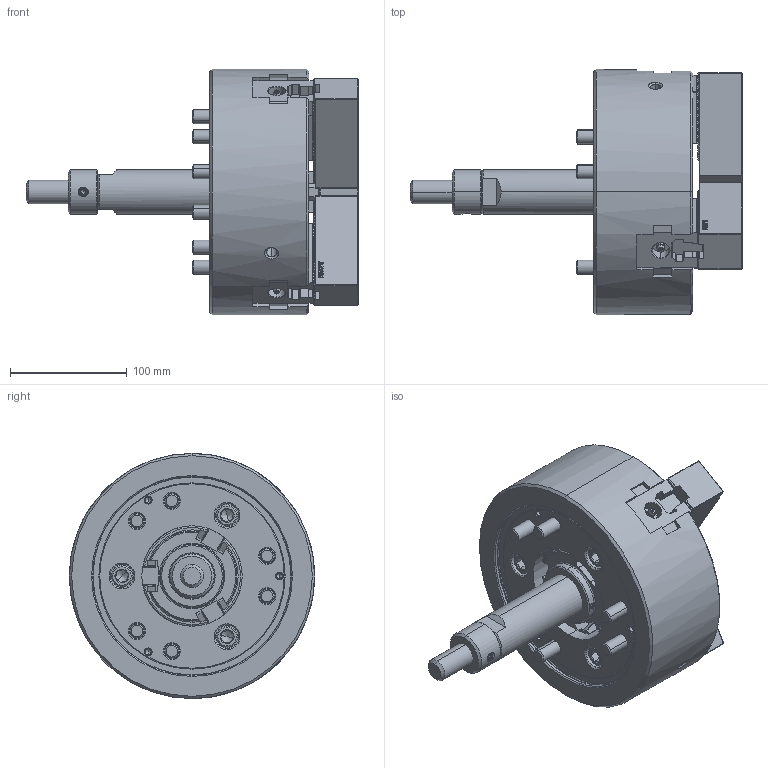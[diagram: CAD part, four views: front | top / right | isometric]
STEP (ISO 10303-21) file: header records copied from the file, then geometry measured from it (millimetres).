
FILE_DESCRIPTION (( 'STEP AP214' ), '1' );
FILE_NAME ('DT1_NL08_OUTSIDE_VIEW_HOL.STEP', '2026-03-19T05:28:34', ( '' ), ( '' ), 'SwSTEP 2.0', 'SolidWorks 2022', '' );
FILE_SCHEMA (( 'AUTOMOTIVE_DESIGN' ));
Length unit declared in the file: millimetre
Products named in the file (11): DT1_NL08_DN^DT1_NL08; DT1_NL08_SOFTJAW^DT1_NL08; DT1_NL08_BASE^DT1_NL08; DT1_NL08_TNUT^DT1_NL08; DT1_NL08_M12x35^DT1_NL08; DT1_NL08_M5x12^DT1_NL08; DT1_NL08_M12x85^DT1_NL08; DT1_NL08_COVER^DT1_NL08; DT1_NL08_OUTSIDE_VIEW_HOL; DT1_NL08_DRAWSCREW^DT1_NL08; Copy of 61P310518^DT1_NL08
Assembly tree (26 placements, depth 2):
  DT1_NL08_OUTSIDE_VIEW_HOL
    DT1_NL08_SOFTJAW^DT1_NL08  x3
    DT1_NL08_TNUT^DT1_NL08  x3
    DT1_NL08_COVER^DT1_NL08
    DT1_NL08_DRAWSCREW^DT1_NL08
    Copy of 61P310518^DT1_NL08
    DT1_NL08_M12x85^DT1_NL08  x6
    DT1_NL08_M12x35^DT1_NL08  x6
    DT1_NL08_M5x12^DT1_NL08  x3
    DT1_NL08_DN^DT1_NL08
    DT1_NL08_BASE^DT1_NL08
Bounding box: 284.31 x 210 x 210 mm (x, y, z)
Volume: 3139780 mm3; surface area: 396431.5 mm2
Topology: 26 solids, 26 shells, 4781 faces, 13486 edges, 8828 vertices
Faces by surface type: plane 2716, cylinder 1146, cone 427, bspline 414, torus 72, sphere 6
Entity records: 109056 total; most frequent: CARTESIAN_POINT 32996, ORIENTED_EDGE 17360, DIRECTION 13427, EDGE_CURVE 8680, VECTOR 5871, LINE 5871, VERTEX_POINT 5688, AXIS2_PLACEMENT_3D 3778
